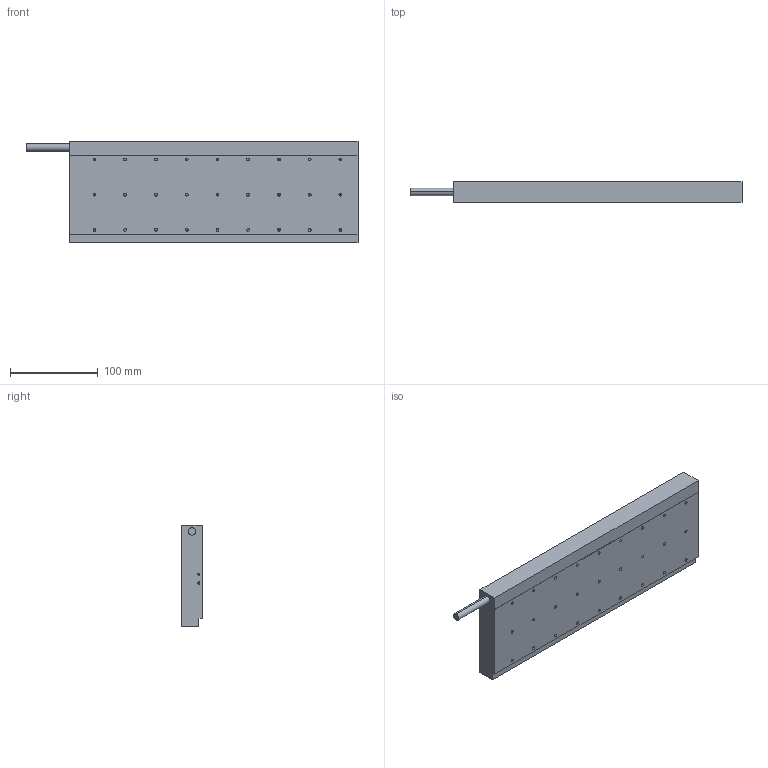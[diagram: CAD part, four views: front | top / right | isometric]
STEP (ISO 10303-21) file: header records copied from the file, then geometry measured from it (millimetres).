
FILE_DESCRIPTION (( 'STEP AP214' ), '1' );
FILE_NAME ('雄赽MK33.STEP', '2025-09-05T09:03:07', ( '' ), ( '' ), 'SwSTEP 2.0', 'SolidWorks 2016', '' );
FILE_SCHEMA (( 'AUTOMOTIVE_DESIGN' ));
Length unit declared in the file: millimetre
Products named in the file (1): 雄赽MK33
Bounding box: 378 x 23.7 x 116 mm (x, y, z)
Volume: 888867.3 mm3; surface area: 100227.8 mm2
Topology: 1 solids, 1 shells, 129 faces, 320 edges, 165 vertices
Faces by surface type: cylinder 60, cone 58, plane 11
Entity records: 4133 total; most frequent: DIRECTION 642, CARTESIAN_POINT 557, ORIENTED_EDGE 524, EDGE_CURVE 262, AXIS2_PLACEMENT_3D 250, VERTEX_POINT 165, EDGE_LOOP 159, LINE 142
